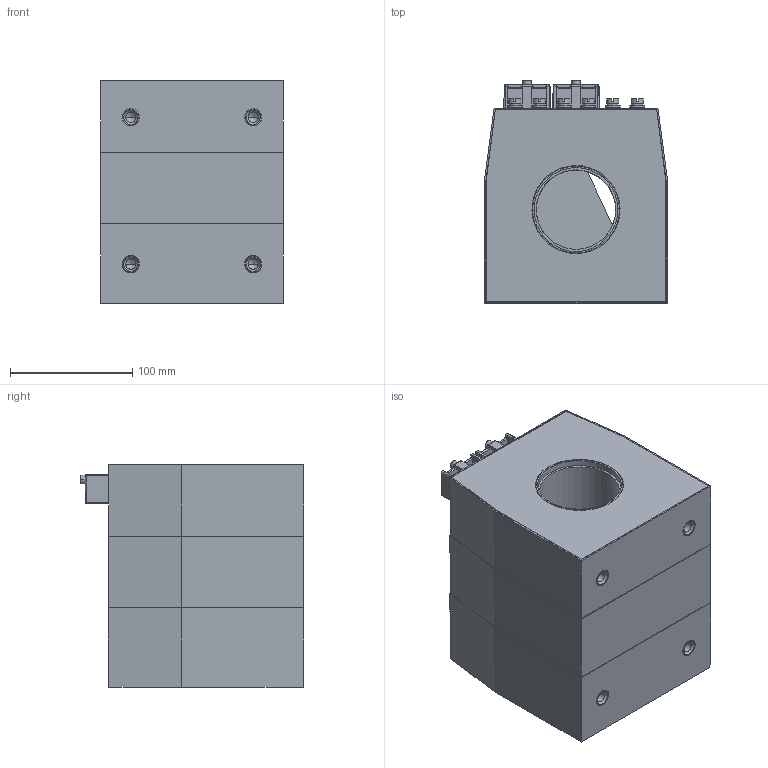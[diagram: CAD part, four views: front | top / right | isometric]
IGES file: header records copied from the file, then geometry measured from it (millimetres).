
Start section: IGES file generated from Kompas f.0 for Windows drawing by the IGES translator from Ascon Ltd., translator version IGESOUT-5.1.
Global section: file name: C:\Ðàáîòà\Èçâåùåíèÿ 5\ÒØÏ-ÍÒÇ-0.66-61...,71...,81... (ñáîðíûé)\Âåðñèÿ îò 21.05.24\3D ìîäåëü\ÒØÏ-ÍÒÇ-0,66-83À\ÒØÏ-ÍÒÇ-0,66-83À (65 ìì, 3-é ãàáàðèò).igs; native system: Kompas( 32 bit ) for Windows; preprocessor: 1.0; author: 123; organization: Microsoft; date: -17750727:094619; units: millimetre
Bounding box: 150 x 182.93 x 182 mm (x, y, z)
Volume: 660993 mm3; surface area: 438929.3 mm2
Topology: 41 solids, 41 shells, 839 faces, 1947 edges, 1199 vertices
Faces by surface type: revolution 484, bspline 355
